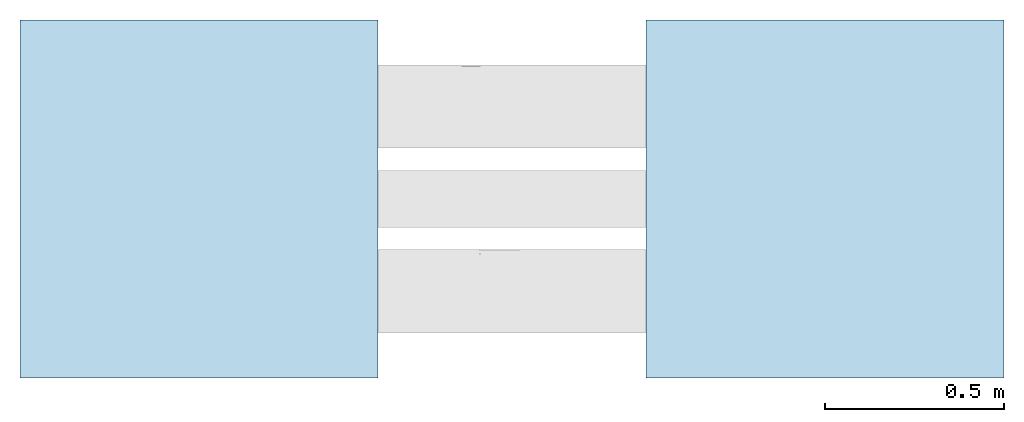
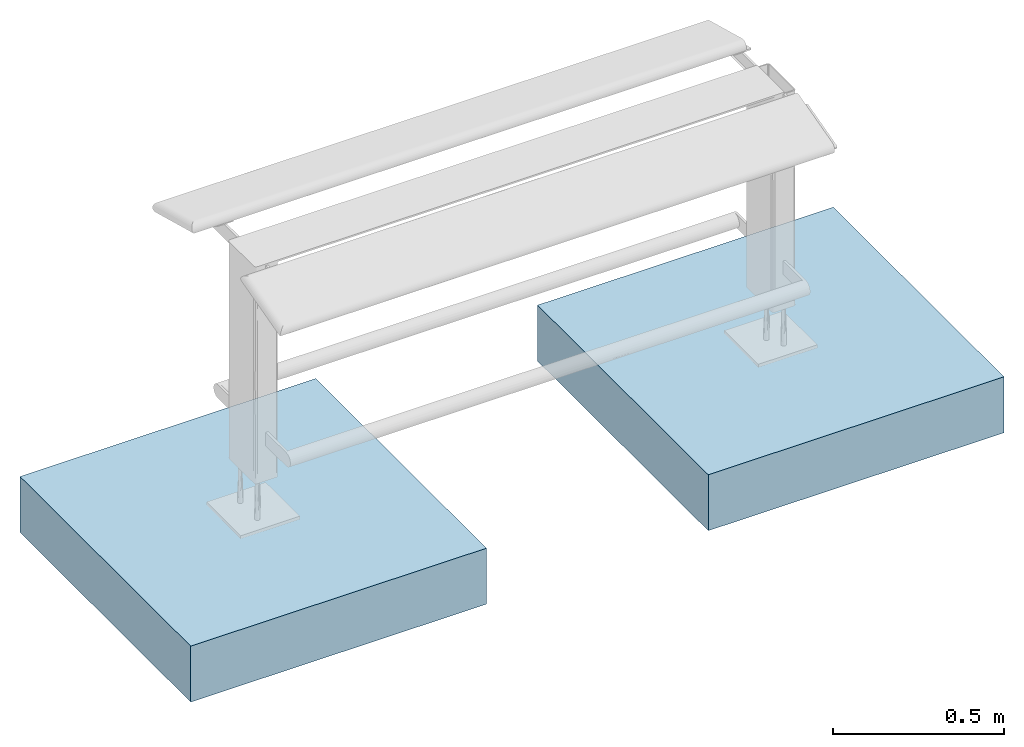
# One storey, incomplete: 2 slabs.
"""IFC4 building model written with IfcOpenShell, lengths in metres."""

from ifc_helpers import new_model, entity, si_unit, converted_unit, direction, frame, frame_2d, origin, origin_2d_with_axis, place, context, subcontext, project, spatial, rectangle, extrude, material, type_object, element, save


model = new_model("IFC4")

# Units and contexts
model_context = context("Model", 3, precision=1e-05, world=origin(), true_north=direction((6.123031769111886e-17, 1.0)))
body_context = subcontext(model_context, "Body", "Model", "MODEL_VIEW")
ifc_project = project(units=[si_unit("LENGTHUNIT", "METRE"), converted_unit("PLANEANGLEUNIT", "DEGREE", entity("IfcPlaneAngleMeasure", 0.017453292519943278), si_unit("PLANEANGLEUNIT", "RADIAN"), dimensions=[0, 0, 0, 0, 0, 0, 0]), si_unit("AREAUNIT", "SQUARE_METRE")], contexts=[model_context])

# Site, building, storey
site_placement = place(None, origin())
site = spatial("IfcSite", under=ifc_project, at=site_placement, Name="Default", CompositionType="ELEMENT")
building_placement = place(site_placement, origin())
building = spatial("IfcBuilding", under=site, at=building_placement, CompositionType="ELEMENT")
storey_placement = place(building_placement, origin())
storey = spatial("IfcBuildingStorey", under=building, at=storey_placement, Name="Ebene 0", CompositionType="ELEMENT", Elevation=0.0)

# Slabs
ifc_material = material(Name="DB_Fertigbeton", Category="DB_Beton")
slab_type = type_object("IfcSlabType", Name="DB_Calidum_light_Fundament:DB_Calidum_light_Fundament", PredefinedType="BASESLAB", material=ifc_material)
slab_1_placement = place(storey_placement, origin())
element("IfcSlab", 1, at=slab_1_placement, inside=storey, type_object=slab_type, Name="DB_Calidum_light_Fundament:DB_Calidum_light_Fundament", ObjectType="DB_Calidum_light_Fundament:DB_Calidum_light_Fundament", PredefinedType="BASESLAB", context=body_context, shape_type="SweptSolid", body=[
    extrude(rectangle(XDim=0.9999999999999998, YDim=0.9999999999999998, at=frame_2d((0.0, 1.1102230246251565e-16), x_axis=(1.0, 0.0))), frame((-1.7500000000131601, 0.0, -0.3619999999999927), z_axis=(0.0, 0.0, 1.0), x_axis=(0.0, 1.0, 0.0)), (0.0, 0.0, 1.0), 0.2),
])
slab_2_placement = place(storey_placement, origin())
element("IfcSlab", 2, at=slab_2_placement, inside=storey, type_object=slab_type, Name="DB_Calidum_light_Fundament:DB_Calidum_light_Fundament", ObjectType="DB_Calidum_light_Fundament:DB_Calidum_light_Fundament", PredefinedType="BASESLAB", context=body_context, shape_type="SweptSolid", body=[
    extrude(rectangle(XDim=0.9999999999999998, YDim=0.9999999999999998, at=origin_2d_with_axis()), frame((0.0, 0.0, -0.3619999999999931), z_axis=(0.0, 0.0, 1.0), x_axis=(0.0, 1.0, 0.0)), (0.0, 0.0, 1.0), 0.2),
])

save(model, "model.ifc")
